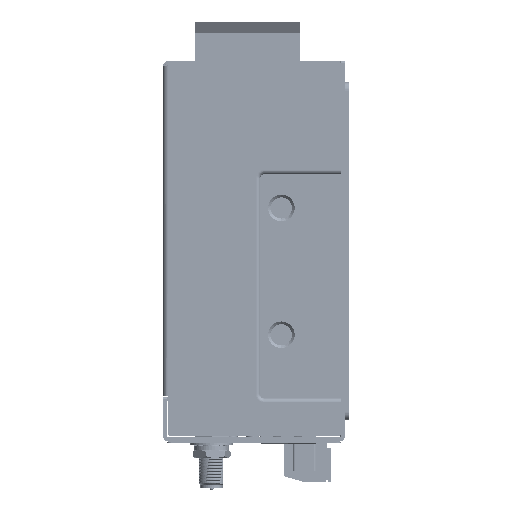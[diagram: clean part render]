
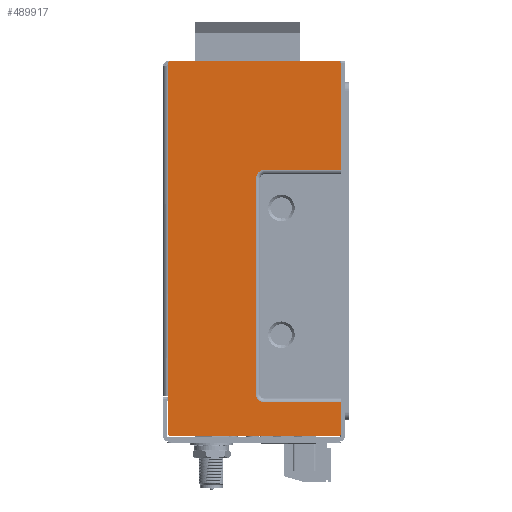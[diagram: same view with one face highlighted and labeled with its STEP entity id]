
A CAD part, left-side view. The second image highlights one B-rep face of the part: STEP entity #489917.
In plain terms, the highlighted planar face has unit normal (-1, 0, 0).
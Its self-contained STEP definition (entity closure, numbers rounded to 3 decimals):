
#874 = CARTESIAN_POINT ( 'NONE',  ( 0., 40.5, 9.65 ) ) ;
#4330 = CARTESIAN_POINT ( 'NONE',  ( 0., 0.25, 9.65 ) ) ;
#4812 = DIRECTION ( 'NONE',  ( 0., -1., 0. ) ) ;
#5679 = CARTESIAN_POINT ( 'NONE',  ( 0., 23., -53.35 ) ) ;
#13097 = DIRECTION ( 'NONE',  ( 0., -1., 0. ) ) ;
#16167 = EDGE_CURVE ( 'NONE', #323259, #200229, #282210, .T. ) ;
#24862 = DIRECTION ( 'NONE',  ( 0., 1., 0. ) ) ;
#33985 = DIRECTION ( 'NONE',  ( 0., 1., 0. ) ) ;
#35448 = ORIENTED_EDGE ( 'NONE', *, *, #362054, .T. ) ;
#36678 = CIRCLE ( 'NONE', #274692, 0.5 ) ;
#38946 = DIRECTION ( 'NONE',  ( 1., 0., 0. ) ) ;
#43653 = AXIS2_PLACEMENT_3D ( 'NONE', #93406, #264900, #267753 ) ;
#49892 = EDGE_CURVE ( 'NONE', #479262, #468132, #555474, .T. ) ;
#50338 = DIRECTION ( 'NONE',  ( -1., 0., 0. ) ) ;
#53161 = DIRECTION ( 'NONE',  ( 0., 1., 0. ) ) ;
#55313 = LINE ( 'NONE', #224023, #102645 ) ;
#57891 = AXIS2_PLACEMENT_3D ( 'NONE', #165413, #428573, #33985 ) ;
#60574 = VERTEX_POINT ( 'NONE', #254333 ) ;
#63110 = VECTOR ( 'NONE', #100403, 1000. ) ;
#65277 = LINE ( 'NONE', #233978, #499498 ) ;
#69507 = DIRECTION ( 'NONE',  ( 0., 0., -1. ) ) ;
#72874 = CARTESIAN_POINT ( 'NONE',  ( 0., 41., 9.15 ) ) ;
#78333 = EDGE_CURVE ( 'NONE', #531855, #207188, #284127, .T. ) ;
#81716 = LINE ( 'NONE', #4330, #95131 ) ;
#85145 = EDGE_CURVE ( 'NONE', #200229, #411093, #227535, .T. ) ;
#90597 = CARTESIAN_POINT ( 'NONE',  ( 0., 0., -53.35 ) ) ;
#93406 = CARTESIAN_POINT ( 'NONE',  ( 0., 40.5, -78.6 ) ) ;
#95131 = VECTOR ( 'NONE', #178712, 1000. ) ;
#98416 = CARTESIAN_POINT ( 'NONE',  ( 0., 40.5, 9.15 ) ) ;
#100403 = DIRECTION ( 'NONE',  ( 0., 0., -1. ) ) ;
#101122 = CARTESIAN_POINT ( 'NONE',  ( 0., 23., 1.65 ) ) ;
#101361 = AXIS2_PLACEMENT_3D ( 'NONE', #270449, #50338, #53161 ) ;
#102645 = VECTOR ( 'NONE', #541272, 1000. ) ;
#103176 = ORIENTED_EDGE ( 'NONE', *, *, #16167, .T. ) ;
#104347 = LINE ( 'NONE', #453140, #262956 ) ;
#106827 = DIRECTION ( 'NONE',  ( 0., 1., 0. ) ) ;
#116299 = CARTESIAN_POINT ( 'NONE',  ( 0., 0.75, 9.15 ) ) ;
#121620 = VERTEX_POINT ( 'NONE', #294904 ) ;
#121901 = CIRCLE ( 'NONE', #57891, 2. ) ;
#124722 = CARTESIAN_POINT ( 'NONE',  ( 0., 0., 0. ) ) ;
#135345 = EDGE_CURVE ( 'NONE', #204472, #60574, #492053, .T. ) ;
#138096 = CARTESIAN_POINT ( 'NONE',  ( 0., 0.25, 9.15 ) ) ;
#141757 = CARTESIAN_POINT ( 'NONE',  ( 0., 23., 1.65 ) ) ;
#142226 = DIRECTION ( 'NONE',  ( 0., 0., -1. ) ) ;
#156265 = DIRECTION ( 'NONE',  ( -1., 0., 0. ) ) ;
#165413 = CARTESIAN_POINT ( 'NONE',  ( 0., 23., -51.35 ) ) ;
#171439 = ORIENTED_EDGE ( 'NONE', *, *, #256257, .T. ) ;
#178712 = DIRECTION ( 'NONE',  ( 0., 0., -1. ) ) ;
#181953 = LINE ( 'NONE', #90597, #429469 ) ;
#184898 = ORIENTED_EDGE ( 'NONE', *, *, #49892, .F. ) ;
#188977 = CIRCLE ( 'NONE', #243600, 2. ) ;
#191313 = ORIENTED_EDGE ( 'NONE', *, *, #560412, .F. ) ;
#200229 = VERTEX_POINT ( 'NONE', #227635 ) ;
#204472 = VERTEX_POINT ( 'NONE', #494148 ) ;
#205189 = EDGE_CURVE ( 'NONE', #257874, #531855, #65277, .T. ) ;
#205740 = AXIS2_PLACEMENT_3D ( 'NONE', #124722, #38946, #207656 ) ;
#207188 = VERTEX_POINT ( 'NONE', #551249 ) ;
#207656 = DIRECTION ( 'NONE',  ( 0., 1., 0. ) ) ;
#208976 = ORIENTED_EDGE ( 'NONE', *, *, #495773, .T. ) ;
#210085 = ORIENTED_EDGE ( 'NONE', *, *, #78333, .T. ) ;
#213742 = CARTESIAN_POINT ( 'NONE',  ( 0., 40.5, -79.1 ) ) ;
#215548 = ORIENTED_EDGE ( 'NONE', *, *, #281226, .F. ) ;
#216429 = LINE ( 'NONE', #313589, #559251 ) ;
#218774 = EDGE_CURVE ( 'NONE', #221847, #257874, #445374, .T. ) ;
#221847 = VERTEX_POINT ( 'NONE', #543888 ) ;
#224023 = CARTESIAN_POINT ( 'NONE',  ( 0., 41., 0. ) ) ;
#227535 = LINE ( 'NONE', #141757, #517420 ) ;
#227635 = CARTESIAN_POINT ( 'NONE',  ( 0., 41., 1.65 ) ) ;
#233978 = CARTESIAN_POINT ( 'NONE',  ( 0., 0.25, -79.1 ) ) ;
#242379 = DIRECTION ( 'NONE',  ( 0., -1., 0. ) ) ;
#243600 = AXIS2_PLACEMENT_3D ( 'NONE', #390766, #339476, #256407 ) ;
#245774 = ORIENTED_EDGE ( 'NONE', *, *, #554953, .T. ) ;
#253334 = PLANE ( 'NONE',  #205740 ) ;
#254333 = CARTESIAN_POINT ( 'NONE',  ( 0., 21., -51.35 ) ) ;
#256257 = EDGE_CURVE ( 'NONE', #562090, #121620, #181953, .T. ) ;
#256407 = DIRECTION ( 'NONE',  ( 0., 1., 0. ) ) ;
#257874 = VERTEX_POINT ( 'NONE', #213742 ) ;
#262956 = VECTOR ( 'NONE', #410243, 1000. ) ;
#264900 = DIRECTION ( 'NONE',  ( -1., 0., 0. ) ) ;
#267753 = DIRECTION ( 'NONE',  ( 0., 1., 0. ) ) ;
#270449 = CARTESIAN_POINT ( 'NONE',  ( 0., 0.75, -78.6 ) ) ;
#274692 = AXIS2_PLACEMENT_3D ( 'NONE', #98416, #321339, #106827 ) ;
#275986 = ORIENTED_EDGE ( 'NONE', *, *, #218774, .T. ) ;
#281226 = EDGE_CURVE ( 'NONE', #358471, #479262, #81716, .T. ) ;
#282210 = LINE ( 'NONE', #445412, #310685 ) ;
#284127 = CIRCLE ( 'NONE', #101361, 0.5 ) ;
#294904 = CARTESIAN_POINT ( 'NONE',  ( 0., 41., -53.35 ) ) ;
#296314 = VERTEX_POINT ( 'NONE', #453138 ) ;
#310685 = VECTOR ( 'NONE', #142226, 1000. ) ;
#313589 = CARTESIAN_POINT ( 'NONE',  ( 0., 41., 9.65 ) ) ;
#321339 = DIRECTION ( 'NONE',  ( -1., 0., 0. ) ) ;
#323078 = VECTOR ( 'NONE', #69507, 1000. ) ;
#323259 = VERTEX_POINT ( 'NONE', #72874 ) ;
#336049 = EDGE_CURVE ( 'NONE', #207188, #468132, #104347, .T. ) ;
#339476 = DIRECTION ( 'NONE',  ( 1., 0., 0. ) ) ;
#346626 = EDGE_CURVE ( 'NONE', #121620, #221847, #55313, .T. ) ;
#358471 = VERTEX_POINT ( 'NONE', #138096 ) ;
#362054 = EDGE_CURVE ( 'NONE', #411093, #204472, #188977, .T. ) ;
#366356 = ORIENTED_EDGE ( 'NONE', *, *, #517610, .T. ) ;
#374820 = ORIENTED_EDGE ( 'NONE', *, *, #346626, .T. ) ;
#383578 = ORIENTED_EDGE ( 'NONE', *, *, #205189, .T. ) ;
#390020 = ORIENTED_EDGE ( 'NONE', *, *, #85145, .T. ) ;
#390766 = CARTESIAN_POINT ( 'NONE',  ( 0., 23., -0.35 ) ) ;
#396403 = ORIENTED_EDGE ( 'NONE', *, *, #135345, .T. ) ;
#399855 = CIRCLE ( 'NONE', #500178, 0.5 ) ;
#403401 = ORIENTED_EDGE ( 'NONE', *, *, #336049, .T. ) ;
#410243 = DIRECTION ( 'NONE',  ( 0., 0., 1. ) ) ;
#411093 = VERTEX_POINT ( 'NONE', #101122 ) ;
#424532 = EDGE_LOOP ( 'NONE', ( #383578, #210085, #403401, #184898, #215548, #245774, #191313, #208976, #103176, #390020, #35448, #396403, #366356, #171439, #374820, #275986 ) ) ;
#428573 = DIRECTION ( 'NONE',  ( 1., 0., 0. ) ) ;
#429469 = VECTOR ( 'NONE', #565305, 1000. ) ;
#445374 = CIRCLE ( 'NONE', #43653, 0.5 ) ;
#445412 = CARTESIAN_POINT ( 'NONE',  ( 0., 41., 0. ) ) ;
#453138 = CARTESIAN_POINT ( 'NONE',  ( 0., 0.75, 9.65 ) ) ;
#453140 = CARTESIAN_POINT ( 'NONE',  ( 0., 0.25, -119.862 ) ) ;
#460023 = CARTESIAN_POINT ( 'NONE',  ( 0., 0.25, 0.15 ) ) ;
#461228 = CARTESIAN_POINT ( 'NONE',  ( 0., 0.25, -79.1 ) ) ;
#468132 = VERTEX_POINT ( 'NONE', #556363 ) ;
#473535 = FACE_OUTER_BOUND ( 'NONE', #424532, .T. ) ;
#479262 = VERTEX_POINT ( 'NONE', #460023 ) ;
#489917 = ADVANCED_FACE ( 'NONE', ( #473535 ), #253334, .F. ) ;
#492053 = LINE ( 'NONE', #534992, #63110 ) ;
#494148 = CARTESIAN_POINT ( 'NONE',  ( 0., 21., -0.35 ) ) ;
#495773 = EDGE_CURVE ( 'NONE', #554234, #323259, #36678, .T. ) ;
#499498 = VECTOR ( 'NONE', #242379, 1000. ) ;
#499681 = CARTESIAN_POINT ( 'NONE',  ( 0., 0.75, -79.1 ) ) ;
#500178 = AXIS2_PLACEMENT_3D ( 'NONE', #116299, #156265, #24862 ) ;
#517420 = VECTOR ( 'NONE', #13097, 1000. ) ;
#517610 = EDGE_CURVE ( 'NONE', #60574, #562090, #121901, .T. ) ;
#531855 = VERTEX_POINT ( 'NONE', #499681 ) ;
#534992 = CARTESIAN_POINT ( 'NONE',  ( 0., 21., 0. ) ) ;
#541272 = DIRECTION ( 'NONE',  ( 0., 0., -1. ) ) ;
#543888 = CARTESIAN_POINT ( 'NONE',  ( 0., 41., -78.6 ) ) ;
#551249 = CARTESIAN_POINT ( 'NONE',  ( 0., 0.25, -78.6 ) ) ;
#554234 = VERTEX_POINT ( 'NONE', #874 ) ;
#554953 = EDGE_CURVE ( 'NONE', #358471, #296314, #399855, .T. ) ;
#555474 = LINE ( 'NONE', #461228, #323078 ) ;
#556363 = CARTESIAN_POINT ( 'NONE',  ( 0., 0.25, -77.923 ) ) ;
#559251 = VECTOR ( 'NONE', #4812, 1000. ) ;
#560412 = EDGE_CURVE ( 'NONE', #554234, #296314, #216429, .T. ) ;
#562090 = VERTEX_POINT ( 'NONE', #5679 ) ;
#565305 = DIRECTION ( 'NONE',  ( 0., 1., 0. ) ) ;
